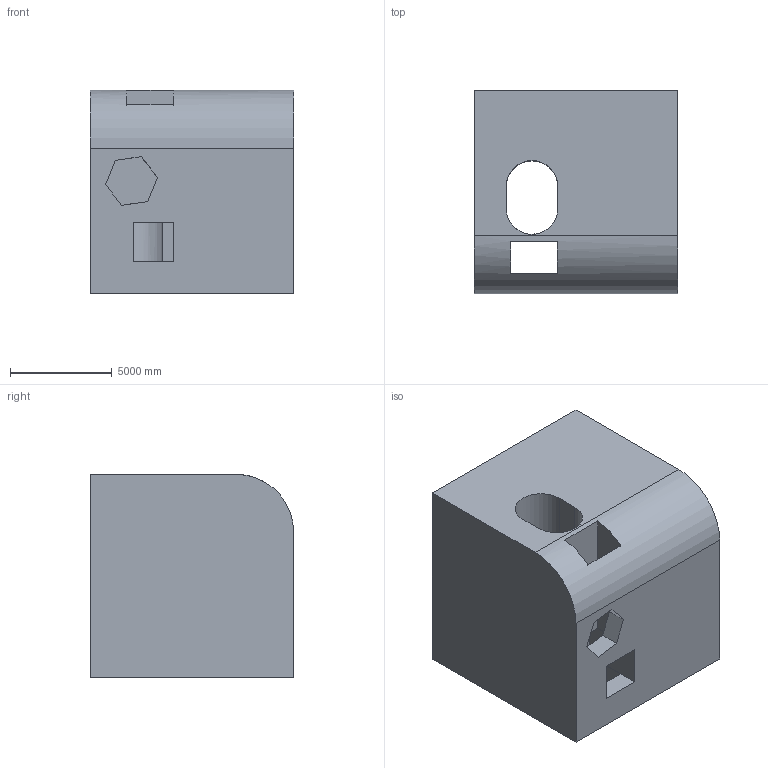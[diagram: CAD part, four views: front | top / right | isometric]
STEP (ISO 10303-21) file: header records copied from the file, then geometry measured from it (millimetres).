
FILE_DESCRIPTION (( 'STEP AP203' ), '1' );
FILE_NAME ('1535.STEP', '2022-08-18T15:08:15', ( 'user' ), ( '' ), 'SwSTEP 2.0', 'SolidWorks 2021', '' );
FILE_SCHEMA (( 'CONFIG_CONTROL_DESIGN' ));
Length unit declared in the file: centimetre
Products named in the file (1): 1535
Bounding box: 10000 x 10000 x 10000 mm (x, y, z)
Volume: 820315098428.5 mm3; surface area: 770622409.2 mm2
Topology: 1 solids, 1 shells, 40 faces, 129 edges, 86 vertices
Faces by surface type: plane 37, cylinder 3
Entity records: 1504 total; most frequent: CARTESIAN_POINT 280, ORIENTED_EDGE 258, DIRECTION 213, EDGE_CURVE 129, LINE 111, VECTOR 111, VERTEX_POINT 86, AXIS2_PLACEMENT_3D 51
